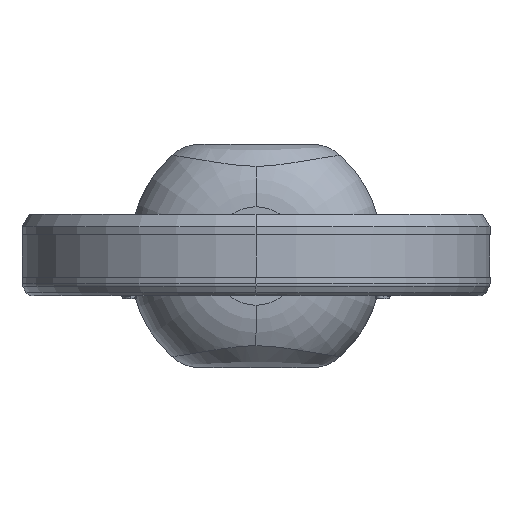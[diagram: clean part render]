
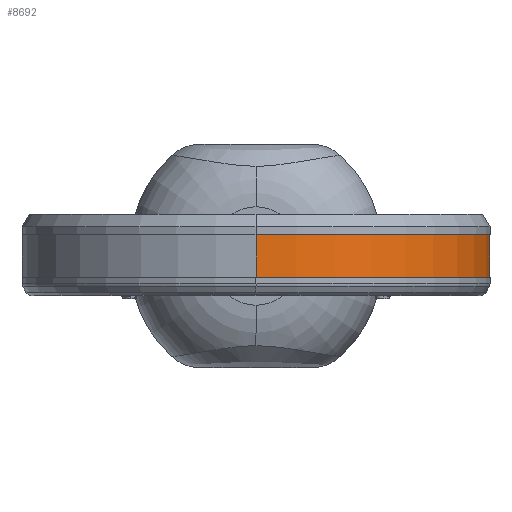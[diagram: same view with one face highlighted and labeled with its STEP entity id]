
A CAD part, left-side view. The second image highlights one B-rep face of the part: STEP entity #8692.
In plain terms, the highlighted cylindrical face has radius 26.571 mm (diameter 53.142 mm), a partial arc.
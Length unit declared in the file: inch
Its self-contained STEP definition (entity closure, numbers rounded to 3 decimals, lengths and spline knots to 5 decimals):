
#1843 = LINE ( 'NONE', #19889, #26341 ) ;
#3004 = VERTEX_POINT ( 'NONE', #18315 ) ;
#3662 = AXIS2_PLACEMENT_3D ( 'NONE', #27655, #6951, #4829 ) ;
#3969 = CYLINDRICAL_SURFACE ( 'NONE', #29782, 1.04611 ) ;
#4261 = FACE_OUTER_BOUND ( 'NONE', #29117, .T. ) ;
#4544 = CARTESIAN_POINT ( 'NONE',  ( 0., 0., -2.167 ) ) ;
#4829 = DIRECTION ( 'NONE',  ( 1., 0., 0. ) ) ;
#5184 = CARTESIAN_POINT ( 'NONE',  ( 0., 0., -2.292 ) ) ;
#5205 = AXIS2_PLACEMENT_3D ( 'NONE', #5184, #14370, #28017 ) ;
#5675 = VERTEX_POINT ( 'NONE', #11877 ) ;
#6881 = CARTESIAN_POINT ( 'NONE',  ( -1.04611, 0., -2.102 ) ) ;
#6951 = DIRECTION ( 'NONE',  ( 0., 0., 1. ) ) ;
#8389 = EDGE_CURVE ( 'NONE', #5675, #3004, #20958, .T. ) ;
#8692 = ADVANCED_FACE ( 'NONE', ( #4261 ), #3969, .T. ) ;
#11877 = CARTESIAN_POINT ( 'NONE',  ( 0.15622, -1.03438, -2.292 ) ) ;
#13513 = ORIENTED_EDGE ( 'NONE', *, *, #19967, .T. ) ;
#13735 = DIRECTION ( 'NONE',  ( -1., 0., 0. ) ) ;
#14370 = DIRECTION ( 'NONE',  ( 0., 0., 1. ) ) ;
#15694 = ORIENTED_EDGE ( 'NONE', *, *, #20143, .T. ) ;
#16610 = CIRCLE ( 'NONE', #3662, 1.04611 ) ;
#18176 = CIRCLE ( 'NONE', #5205, 1.04611 ) ;
#18315 = CARTESIAN_POINT ( 'NONE',  ( 0.15622, -1.03438, -2.102 ) ) ;
#19889 = CARTESIAN_POINT ( 'NONE',  ( -1.04611, 0., -2.167 ) ) ;
#19967 = EDGE_CURVE ( 'NONE', #25590, #5675, #18176, .T. ) ;
#20143 = EDGE_CURVE ( 'NONE', #25530, #25590, #1843, .T. ) ;
#20821 = CARTESIAN_POINT ( 'NONE',  ( -1.04611, 0., -2.292 ) ) ;
#20958 = LINE ( 'NONE', #23668, #22812 ) ;
#22149 = DIRECTION ( 'NONE',  ( 0., 0., -1. ) ) ;
#22228 = ORIENTED_EDGE ( 'NONE', *, *, #8389, .T. ) ;
#22812 = VECTOR ( 'NONE', #23207, 39.37008 ) ;
#23207 = DIRECTION ( 'NONE',  ( 0., 0., 1. ) ) ;
#23668 = CARTESIAN_POINT ( 'NONE',  ( 0.15622, -1.03438, -2.292 ) ) ;
#24859 = DIRECTION ( 'NONE',  ( 0., 0., -1. ) ) ;
#25530 = VERTEX_POINT ( 'NONE', #6881 ) ;
#25573 = ORIENTED_EDGE ( 'NONE', *, *, #26396, .F. ) ;
#25590 = VERTEX_POINT ( 'NONE', #20821 ) ;
#26341 = VECTOR ( 'NONE', #22149, 39.37008 ) ;
#26396 = EDGE_CURVE ( 'NONE', #25530, #3004, #16610, .T. ) ;
#27655 = CARTESIAN_POINT ( 'NONE',  ( 0., 0., -2.102 ) ) ;
#28017 = DIRECTION ( 'NONE',  ( 1., 0., 0. ) ) ;
#29117 = EDGE_LOOP ( 'NONE', ( #25573, #15694, #13513, #22228 ) ) ;
#29782 = AXIS2_PLACEMENT_3D ( 'NONE', #4544, #24859, #13735 ) ;
